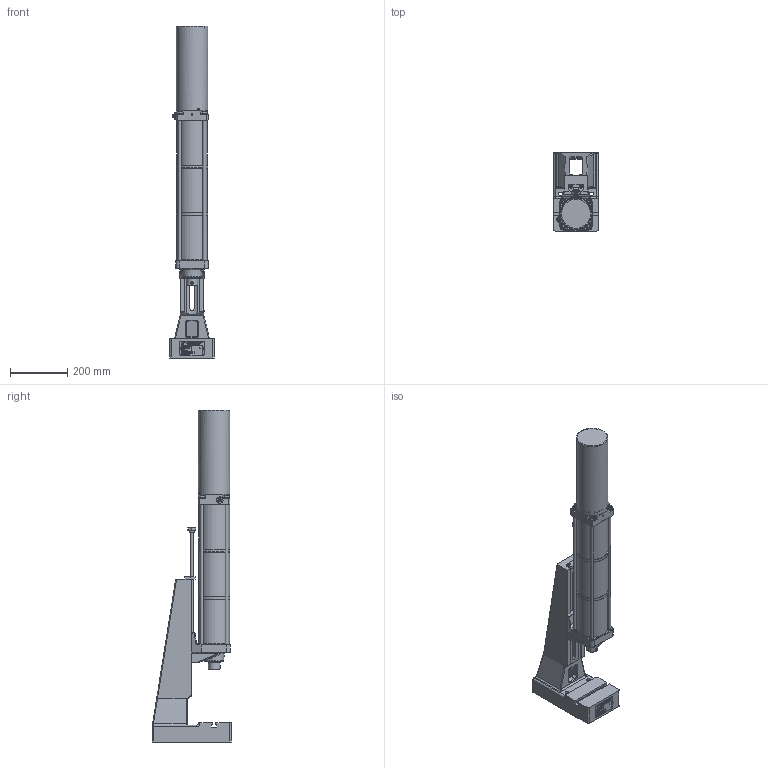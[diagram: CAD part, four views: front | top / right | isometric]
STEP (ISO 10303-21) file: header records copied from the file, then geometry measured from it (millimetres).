
FILE_DESCRIPTION(/* description */ ('BS Ständer L-DA Ausladung 80'),/* implementation_level */ '2;1');
FILE_NAME(/* name */ 'B:\02_CAD_oeffentlich\CAD_3D_oeffentlich_step\Druckluftpresse\DRP_L_1300_120_080.stp',/* time_stamp */ '2017-08-22T07:57:55+02:00',/* author */ ('Finsterle'),/* organization */ (''),/* preprocessor_version */ 'ST-DEVELOPER v16.1',/* originating_system */ 'Autodesk Inventor 2016',/* authorisation */ '');
FILE_SCHEMA (('AUTOMOTIVE_DESIGN { 1 0 10303 214 3 1 1 }'));
Products named in the file (5): ENG-000855_V; ENG-001058_V; HBF-000760; ENG-000755; HBF-001044_V
Assembly tree (5 placements, depth 2):
  HBF-001044_V
    ENG-000855_V
    ENG-001058_V
    HBF-000760
    ENG-000755  x2
Bounding box: 156 x 276.8 x 1161.32 mm (x, y, z)
Volume: 5958787.3 mm3; surface area: 1344737.9 mm2
Topology: 6 solids, 6 shells, 7570 faces, 20701 edges, 13577 vertices
Faces by surface type: plane 4627, bspline 2241, cylinder 399, cone 146, torus 96, sphere 61
Full cylindrical faces by diameter (mm): 1 x1, 2 x1, 2.459 x2, 3 x9, 3.242 x2, 3.5 x2, 4 x3, 4.917 x2, 5 x4, 6.5 x2, 6.647 x1, 8 x9, 8.4 x1, 9.5 x1, 10 x6, 10.106 x1, 10.5 x8, 11 x2, 11.8 x2, 12 x6, 12.5 x3, 13 x4, 14.376 x1, 14.95 x3, 16 x1, 17.5 x2, 18 x3, 19.4 x1, 19.5 x1, 20 x7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
Entity records: 259118 total; most frequent: CARTESIAN_POINT 76863, ORIENTED_EDGE 40446, DIRECTION 27385, EDGE_CURVE 20218, LINE 14411, VECTOR 14411, VERTEX_POINT 13475, EDGE_LOOP 8425
